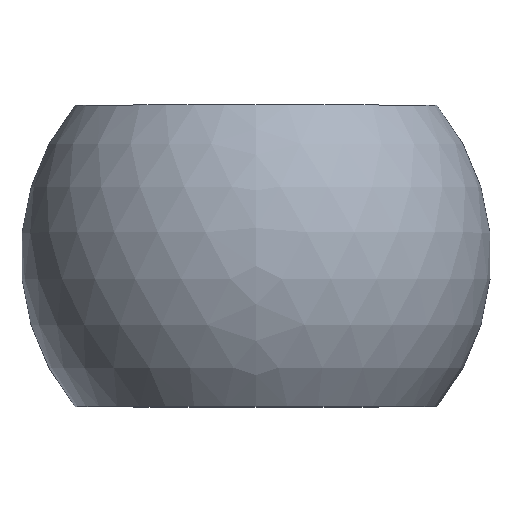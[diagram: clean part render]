
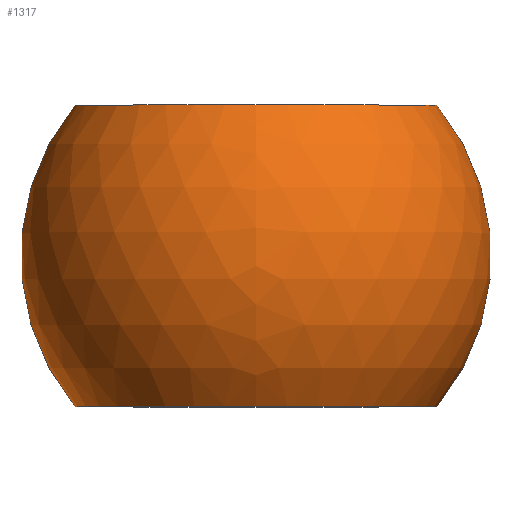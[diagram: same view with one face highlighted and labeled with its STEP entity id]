
A CAD part, top view. The second image highlights one B-rep face of the part: STEP entity #1317.
In plain terms, the highlighted spherical face has radius 62.5 mm.
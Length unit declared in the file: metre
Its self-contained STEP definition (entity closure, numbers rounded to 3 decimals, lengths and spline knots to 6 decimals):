
#1317=ADVANCED_FACE('',(#2927,#2928),#2929,.T.);
#2927=FACE_OUTER_BOUND('',#4856,.T.);
#2928=FACE_OUTER_BOUND('',#4857,.T.);
#2929=SPHERICAL_SURFACE('',#4858,0.0625);
#4856=EDGE_LOOP('',(#7161));
#4857=EDGE_LOOP('',(#7162));
#4858=AXIS2_PLACEMENT_3D('',#7163,#7164,#7165);
#7161=ORIENTED_EDGE('',*,*,#8451,.F.);
#7162=ORIENTED_EDGE('',*,*,#8111,.T.);
#7163=CARTESIAN_POINT('',(0.095125,0.018298,0.0));
#7164=DIRECTION('',(0.0,1.0,0.0));
#7165=DIRECTION('',(-1.0,0.0,0.0));
#8111=EDGE_CURVE('',#9090,#9090,#9091,.T.);
#8451=EDGE_CURVE('',#9647,#9647,#9648,.T.);
#9090=VERTEX_POINT('',#10398);
#9091=CIRCLE('',#10399,0.048023);
#9647=VERTEX_POINT('',#10955);
#9648=CIRCLE('',#10956,0.048);
#10398=CARTESIAN_POINT('',(0.095125,-0.021702,0.048023));
#10399=AXIS2_PLACEMENT_3D('',#11756,#11757,#11758);
#10955=CARTESIAN_POINT('',(0.095125,0.058326,0.048));
#10956=AXIS2_PLACEMENT_3D('',#12407,#12408,#12409);
#11756=CARTESIAN_POINT('',(0.095125,-0.021702,0.0));
#11757=DIRECTION('',(0.0,1.0,0.0));
#11758=DIRECTION('',(0.0,0.0,1.0));
#12407=CARTESIAN_POINT('',(0.095125,0.058326,0.0));
#12408=DIRECTION('',(0.0,1.0,0.0));
#12409=DIRECTION('',(0.0,0.0,1.0));
